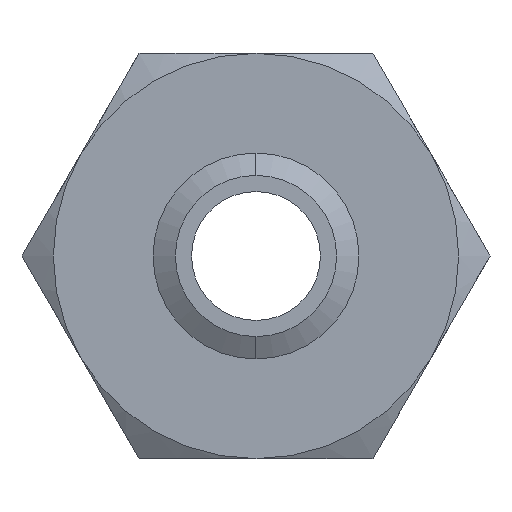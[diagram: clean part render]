
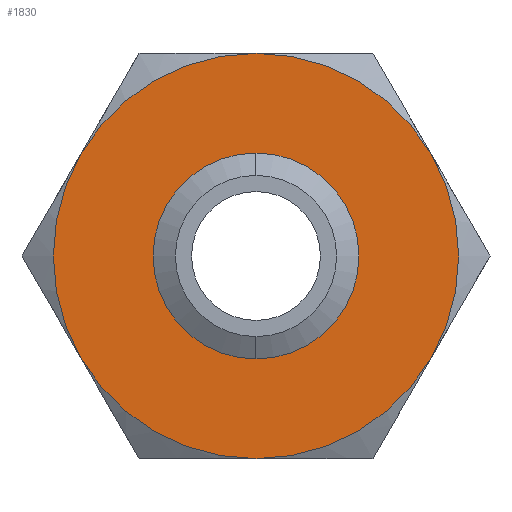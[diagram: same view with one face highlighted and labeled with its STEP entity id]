
A CAD part, front view. The second image highlights one B-rep face of the part: STEP entity #1830.
In plain terms, the highlighted planar face has unit normal (0, -1, 0).
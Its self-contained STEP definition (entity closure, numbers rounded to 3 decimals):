
#81 = EDGE_CURVE ( 'NONE', #82, #83, #331, .T. ) ;
#82 = VERTEX_POINT ( 'NONE', #321 ) ;
#83 = VERTEX_POINT ( 'NONE', #320 ) ;
#320 = CARTESIAN_POINT ( 'NONE',  ( 0., 0., 9.946 ) ) ;
#321 = CARTESIAN_POINT ( 'NONE',  ( 0., 0., -9.946 ) ) ;
#322 = DIRECTION ( 'NONE',  ( 0., 0., -1. ) ) ;
#323 = DIRECTION ( 'NONE',  ( 0., -1., 0. ) ) ;
#324 = CARTESIAN_POINT ( 'NONE',  ( 0., 0., 0. ) ) ;
#325 = AXIS2_PLACEMENT_3D ( 'NONE', #324, #323, #322 ) ;
#331 = CIRCLE ( 'NONE', #325, 9.946 ) ;
#770 = CARTESIAN_POINT ( 'NONE',  ( 21.651, 0., -12.5 ) ) ;
#778 = DIRECTION ( 'NONE',  ( 0., 0., -1. ) ) ;
#779 = DIRECTION ( 'NONE',  ( 0., -1., 0. ) ) ;
#780 = CARTESIAN_POINT ( 'NONE',  ( 0., 0., 0. ) ) ;
#781 = AXIS2_PLACEMENT_3D ( 'NONE', #780, #779, #778 ) ;
#782 = CIRCLE ( 'NONE', #781, 9.946 ) ;
#820 = DIRECTION ( 'NONE',  ( 0., 0., 1. ) ) ;
#821 = DIRECTION ( 'NONE',  ( 0., 1., 0. ) ) ;
#822 = CARTESIAN_POINT ( 'NONE',  ( 0., 0., 0. ) ) ;
#823 = AXIS2_PLACEMENT_3D ( 'NONE', #822, #821, #820 ) ;
#824 = CIRCLE ( 'NONE', #823, 25. ) ;
#825 = DIRECTION ( 'NONE',  ( 0., 0., 1. ) ) ;
#826 = DIRECTION ( 'NONE',  ( 0., 1., 0. ) ) ;
#827 = CARTESIAN_POINT ( 'NONE',  ( 0., 0., 0. ) ) ;
#828 = AXIS2_PLACEMENT_3D ( 'NONE', #827, #826, #825 ) ;
#829 = CIRCLE ( 'NONE', #828, 25. ) ;
#1015 = DIRECTION ( 'NONE',  ( 0., 0., 1. ) ) ;
#1016 = DIRECTION ( 'NONE',  ( 0., 1., 0. ) ) ;
#1017 = CARTESIAN_POINT ( 'NONE',  ( 0., 0., 0. ) ) ;
#1018 = AXIS2_PLACEMENT_3D ( 'NONE', #1017, #1016, #1015 ) ;
#1019 = CIRCLE ( 'NONE', #1018, 25. ) ;
#1020 = DIRECTION ( 'NONE',  ( 0., 0., 1. ) ) ;
#1021 = DIRECTION ( 'NONE',  ( 0., 1., 0. ) ) ;
#1022 = AXIS2_PLACEMENT_3D ( 'NONE', #1029, #1021, #1020 ) ;
#1023 = CIRCLE ( 'NONE', #1022, 25. ) ;
#1024 = DIRECTION ( 'NONE',  ( 0., 0., 1. ) ) ;
#1025 = DIRECTION ( 'NONE',  ( 0., 1., 0. ) ) ;
#1026 = CARTESIAN_POINT ( 'NONE',  ( 0., 0., 0. ) ) ;
#1027 = AXIS2_PLACEMENT_3D ( 'NONE', #1026, #1025, #1024 ) ;
#1028 = CIRCLE ( 'NONE', #1027, 25. ) ;
#1029 = CARTESIAN_POINT ( 'NONE',  ( 0., 0., 0. ) ) ;
#1030 = CARTESIAN_POINT ( 'NONE',  ( -21.651, 0., 12.5 ) ) ;
#1031 = CARTESIAN_POINT ( 'NONE',  ( 21.651, 0., 12.5 ) ) ;
#1032 = CARTESIAN_POINT ( 'NONE',  ( 0., 0., 25. ) ) ;
#1034 = CARTESIAN_POINT ( 'NONE',  ( -21.651, 0., -12.5 ) ) ;
#1035 = DIRECTION ( 'NONE',  ( 0., 0., 1. ) ) ;
#1036 = DIRECTION ( 'NONE',  ( 0., 1., 0. ) ) ;
#1037 = CARTESIAN_POINT ( 'NONE',  ( 0., 0., 0. ) ) ;
#1038 = AXIS2_PLACEMENT_3D ( 'NONE', #1037, #1036, #1035 ) ;
#1039 = CIRCLE ( 'NONE', #1038, 25. ) ;
#1069 = CARTESIAN_POINT ( 'NONE',  ( 0., 0., -25. ) ) ;
#1185 = DIRECTION ( 'NONE',  ( 0., 0., 1. ) ) ;
#1186 = DIRECTION ( 'NONE',  ( 0., 1., 0. ) ) ;
#1187 = CARTESIAN_POINT ( 'NONE',  ( 14.434, 0., -25. ) ) ;
#1189 = AXIS2_PLACEMENT_3D ( 'NONE', #1187, #1186, #1185 ) ;
#1190 = PLANE ( 'NONE',  #1189 ) ;
#1191 = FACE_BOUND ( 'NONE', #1657, .T. ) ;
#1197 = FACE_OUTER_BOUND ( 'NONE', #1782, .T. ) ;
#1648 = ORIENTED_EDGE ( 'NONE', *, *, #1649, .F. ) ;
#1649 = EDGE_CURVE ( 'NONE', #83, #82, #782, .T. ) ;
#1650 = ORIENTED_EDGE ( 'NONE', *, *, #81, .F. ) ;
#1656 = VERTEX_POINT ( 'NONE', #770 ) ;
#1657 = EDGE_LOOP ( 'NONE', ( #1650, #1648 ) ) ;
#1658 = ORIENTED_EDGE ( 'NONE', *, *, #1661, .F. ) ;
#1660 = EDGE_CURVE ( 'NONE', #1656, #1760, #829, .T. ) ;
#1661 = EDGE_CURVE ( 'NONE', #1748, #1656, #824, .T. ) ;
#1742 = EDGE_CURVE ( 'NONE', #1760, #1744, #1039, .T. ) ;
#1743 = ORIENTED_EDGE ( 'NONE', *, *, #1742, .F. ) ;
#1744 = VERTEX_POINT ( 'NONE', #1034 ) ;
#1746 = ORIENTED_EDGE ( 'NONE', *, *, #1754, .F. ) ;
#1747 = VERTEX_POINT ( 'NONE', #1032 ) ;
#1748 = VERTEX_POINT ( 'NONE', #1031 ) ;
#1749 = ORIENTED_EDGE ( 'NONE', *, *, #1753, .F. ) ;
#1750 = VERTEX_POINT ( 'NONE', #1030 ) ;
#1751 = EDGE_CURVE ( 'NONE', #1744, #1750, #1028, .T. ) ;
#1752 = ORIENTED_EDGE ( 'NONE', *, *, #1751, .F. ) ;
#1753 = EDGE_CURVE ( 'NONE', #1750, #1747, #1023, .T. ) ;
#1754 = EDGE_CURVE ( 'NONE', #1747, #1748, #1019, .T. ) ;
#1760 = VERTEX_POINT ( 'NONE', #1069 ) ;
#1761 = ORIENTED_EDGE ( 'NONE', *, *, #1660, .F. ) ;
#1782 = EDGE_LOOP ( 'NONE', ( #1746, #1749, #1752, #1743, #1761, #1658 ) ) ;
#1830 = ADVANCED_FACE ( 'NONE', ( #1197, #1191 ), #1190, .F. ) ;
